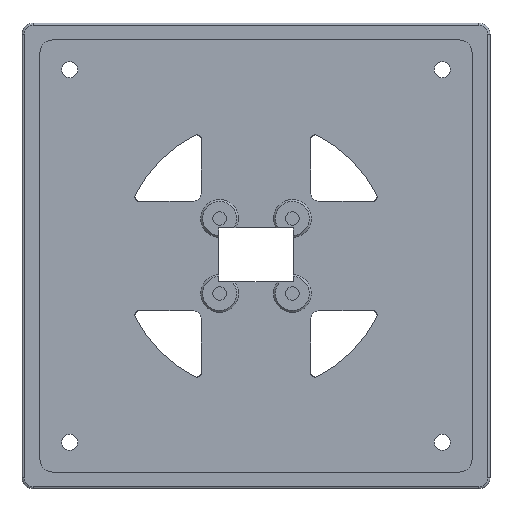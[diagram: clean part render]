
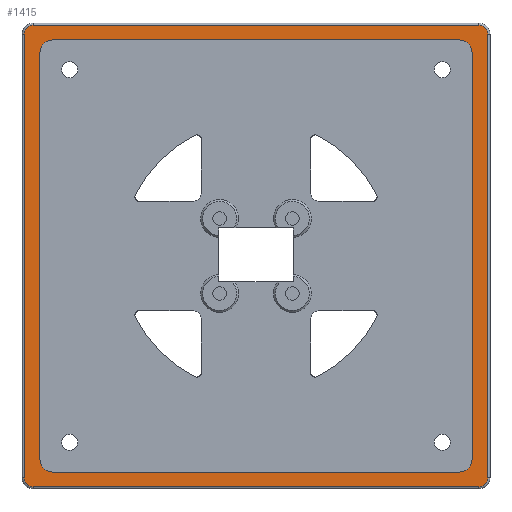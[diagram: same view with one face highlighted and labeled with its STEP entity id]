
A CAD part, front view. The second image highlights one B-rep face of the part: STEP entity #1415.
In plain terms, the highlighted planar face has unit normal (0, -1, 0).
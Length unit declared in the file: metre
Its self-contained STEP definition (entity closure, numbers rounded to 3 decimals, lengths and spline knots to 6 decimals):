
#31=CIRCLE('',#1467,0.002);
#35=CIRCLE('',#1474,0.002);
#39=CIRCLE('',#1479,0.002);
#43=CIRCLE('',#1486,0.002);
#44=CIRCLE('',#1488,0.0028);
#46=CIRCLE('',#1491,0.0028);
#48=CIRCLE('',#1494,0.0028);
#50=CIRCLE('',#1497,0.0028);
#408=ORIENTED_EDGE('',*,*,#738,.F.);
#409=ORIENTED_EDGE('',*,*,#620,.T.);
#410=ORIENTED_EDGE('',*,*,#733,.F.);
#411=ORIENTED_EDGE('',*,*,#624,.T.);
#412=ORIENTED_EDGE('',*,*,#735,.F.);
#413=ORIENTED_EDGE('',*,*,#628,.T.);
#414=ORIENTED_EDGE('',*,*,#737,.F.);
#415=ORIENTED_EDGE('',*,*,#632,.T.);
#416=ORIENTED_EDGE('',*,*,#605,.T.);
#417=ORIENTED_EDGE('',*,*,#599,.T.);
#418=ORIENTED_EDGE('',*,*,#601,.T.);
#419=ORIENTED_EDGE('',*,*,#607,.T.);
#420=ORIENTED_EDGE('',*,*,#613,.T.);
#421=ORIENTED_EDGE('',*,*,#619,.T.);
#422=ORIENTED_EDGE('',*,*,#617,.T.);
#423=ORIENTED_EDGE('',*,*,#611,.T.);
#599=EDGE_CURVE('',#784,#787,#31,.T.);
#601=EDGE_CURVE('',#787,#789,#920,.T.);
#605=EDGE_CURVE('',#790,#784,#923,.T.);
#607=EDGE_CURVE('',#789,#793,#35,.T.);
#611=EDGE_CURVE('',#794,#790,#39,.T.);
#613=EDGE_CURVE('',#793,#797,#924,.T.);
#617=EDGE_CURVE('',#798,#794,#927,.T.);
#619=EDGE_CURVE('',#797,#798,#43,.T.);
#620=EDGE_CURVE('',#800,#801,#44,.T.);
#624=EDGE_CURVE('',#804,#805,#46,.T.);
#628=EDGE_CURVE('',#808,#809,#48,.T.);
#632=EDGE_CURVE('',#812,#813,#50,.T.);
#733=EDGE_CURVE('',#804,#801,#985,.T.);
#735=EDGE_CURVE('',#808,#805,#987,.T.);
#737=EDGE_CURVE('',#812,#809,#989,.T.);
#738=EDGE_CURVE('',#800,#813,#990,.T.);
#784=VERTEX_POINT('',#2157);
#787=VERTEX_POINT('',#2162);
#789=VERTEX_POINT('',#2167);
#790=VERTEX_POINT('',#2172);
#793=VERTEX_POINT('',#2179);
#794=VERTEX_POINT('',#2184);
#797=VERTEX_POINT('',#2191);
#798=VERTEX_POINT('',#2196);
#800=VERTEX_POINT('',#2205);
#801=VERTEX_POINT('',#2206);
#804=VERTEX_POINT('',#2214);
#805=VERTEX_POINT('',#2215);
#808=VERTEX_POINT('',#2223);
#809=VERTEX_POINT('',#2224);
#812=VERTEX_POINT('',#2232);
#813=VERTEX_POINT('',#2233);
#920=LINE('',#2168,#1028);
#923=LINE('',#2175,#1031);
#924=LINE('',#2192,#1032);
#927=LINE('',#2199,#1035);
#985=LINE('',#2437,#1093);
#987=LINE('',#2440,#1095);
#989=LINE('',#2443,#1097);
#990=LINE('',#2445,#1098);
#1028=VECTOR('',#1694,1.);
#1031=VECTOR('',#1701,1.);
#1032=VECTOR('',#1722,1.);
#1035=VECTOR('',#1729,1.);
#1093=VECTOR('',#1987,1.);
#1095=VECTOR('',#1991,1.);
#1097=VECTOR('',#1995,1.);
#1098=VECTOR('',#1998,1.);
#1168=EDGE_LOOP('',(#408,#409,#410,#411,#412,#413,#414,#415));
#1169=EDGE_LOOP('',(#416,#417,#418,#419,#420,#421,#422,#423));
#1278=FACE_BOUND('',#1168,.T.);
#1279=FACE_BOUND('',#1169,.T.);
#1340=PLANE('',#1587);
#1415=ADVANCED_FACE('',(#1278,#1279),#1340,.T.);
#1467=AXIS2_PLACEMENT_3D('',#2163,#1688,#1689);
#1474=AXIS2_PLACEMENT_3D('',#2180,#1706,#1707);
#1479=AXIS2_PLACEMENT_3D('',#2187,#1716,#1717);
#1486=AXIS2_PLACEMENT_3D('',#2202,#1734,#1735);
#1488=AXIS2_PLACEMENT_3D('',#2204,#1738,#1739);
#1491=AXIS2_PLACEMENT_3D('',#2213,#1746,#1747);
#1494=AXIS2_PLACEMENT_3D('',#2222,#1754,#1755);
#1497=AXIS2_PLACEMENT_3D('',#2231,#1762,#1763);
#1587=AXIS2_PLACEMENT_3D('',#2447,#2000,#2001);
#1688=DIRECTION('',(0.,-1.,0.));
#1689=DIRECTION('',(1.,0.,0.));
#1694=DIRECTION('',(0.,0.,-1.));
#1701=DIRECTION('',(-1.,0.,0.));
#1706=DIRECTION('',(0.,-1.,0.));
#1707=DIRECTION('',(1.,0.,0.));
#1716=DIRECTION('',(0.,-1.,0.));
#1717=DIRECTION('',(1.,0.,0.));
#1722=DIRECTION('',(1.,0.,0.));
#1729=DIRECTION('',(0.,0.,1.));
#1734=DIRECTION('',(0.,-1.,0.));
#1735=DIRECTION('',(1.,0.,0.));
#1738=DIRECTION('',(0.,1.,0.));
#1739=DIRECTION('',(1.,0.,0.));
#1746=DIRECTION('',(0.,1.,0.));
#1747=DIRECTION('',(1.,0.,0.));
#1754=DIRECTION('',(0.,1.,0.));
#1755=DIRECTION('',(1.,0.,0.));
#1762=DIRECTION('',(0.,1.,0.));
#1763=DIRECTION('',(1.,0.,0.));
#1987=DIRECTION('',(1.,0.,0.));
#1991=DIRECTION('',(0.,0.,-1.));
#1995=DIRECTION('',(-1.,0.,0.));
#1998=DIRECTION('',(0.,0.,1.));
#2000=DIRECTION('',(0.,-1.,0.));
#2001=DIRECTION('',(1.,0.,0.));
#2157=CARTESIAN_POINT('',(0.1005,-0.028,0.18575));
#2162=CARTESIAN_POINT('',(0.0985,-0.028,0.18375));
#2163=CARTESIAN_POINT('',(0.1005,-0.028,0.18375));
#2167=CARTESIAN_POINT('',(0.0985,-0.028,0.08625));
#2168=CARTESIAN_POINT('',(0.0985,-0.028,0.08625));
#2172=CARTESIAN_POINT('',(0.1985,-0.028,0.18575));
#2175=CARTESIAN_POINT('',(0.1005,-0.028,0.18575));
#2179=CARTESIAN_POINT('',(0.1005,-0.028,0.08425));
#2180=CARTESIAN_POINT('',(0.1005,-0.028,0.08625));
#2184=CARTESIAN_POINT('',(0.2005,-0.028,0.18375));
#2187=CARTESIAN_POINT('',(0.1985,-0.028,0.18375));
#2191=CARTESIAN_POINT('',(0.1985,-0.028,0.08425));
#2192=CARTESIAN_POINT('',(0.1985,-0.028,0.08425));
#2196=CARTESIAN_POINT('',(0.2005,-0.028,0.08625));
#2199=CARTESIAN_POINT('',(0.2005,-0.028,0.18375));
#2202=CARTESIAN_POINT('',(0.1985,-0.028,0.08625));
#2204=CARTESIAN_POINT('',(0.19425,-0.028,0.09025));
#2205=CARTESIAN_POINT('',(0.19705,-0.028,0.09025));
#2206=CARTESIAN_POINT('',(0.19425,-0.028,0.08745));
#2213=CARTESIAN_POINT('',(0.10475,-0.028,0.09025));
#2214=CARTESIAN_POINT('',(0.10475,-0.028,0.08745));
#2215=CARTESIAN_POINT('',(0.10195,-0.028,0.09025));
#2222=CARTESIAN_POINT('',(0.10475,-0.028,0.17975));
#2223=CARTESIAN_POINT('',(0.10195,-0.028,0.17975));
#2224=CARTESIAN_POINT('',(0.10475,-0.028,0.18255));
#2231=CARTESIAN_POINT('',(0.19425,-0.028,0.17975));
#2232=CARTESIAN_POINT('',(0.19425,-0.028,0.18255));
#2233=CARTESIAN_POINT('',(0.19705,-0.028,0.17975));
#2437=CARTESIAN_POINT('',(0.1,-0.028,0.08745));
#2440=CARTESIAN_POINT('',(0.10195,-0.028,0.185));
#2443=CARTESIAN_POINT('',(0.199,-0.028,0.18255));
#2445=CARTESIAN_POINT('',(0.19705,-0.028,0.085));
#2447=CARTESIAN_POINT('',(0.199,-0.028,0.185));
